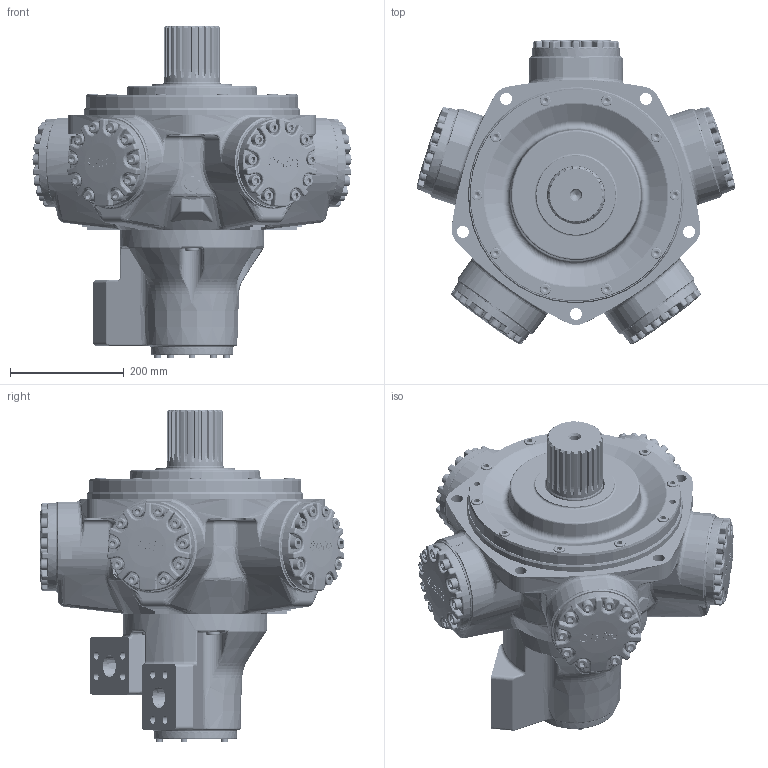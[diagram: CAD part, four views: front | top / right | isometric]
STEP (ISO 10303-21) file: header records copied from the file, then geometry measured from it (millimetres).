
FILE_DESCRIPTION(/* description */ (''),/* implementation_level */ '2;1');
FILE_NAME(/* name */ 'J:\3D Step files\Approved for WEB\Staffa\HMHDB125 Z5 FM4 70.stp',/* time_stamp */ '2017-09-12T13:54:45+01:00',/* author */ ('mnorman'),/* organization */ (''),/* preprocessor_version */ 'ST-DEVELOPER v16.13',/* originating_system */ 'Autodesk Inventor 2018',/* authorisation */ '');
FILE_SCHEMA (('AUTOMOTIVE_DESIGN { 1 0 10303 214 3 1 1 }'));
Length unit declared in the file: millimetre
Products named in the file (1): HMHDB125 Z5 F4 70
Bounding box: 562.07 x 537.19 x 584.91 mm (x, y, z)
Volume: 25448409.6 mm3; surface area: 2130238.9 mm2
Topology: 2 solids, 124 shells, 4237 faces, 10330 edges, 6391 vertices
Faces by surface type: plane 1524, bspline 921, cylinder 865, cone 424, torus 360, sphere 143
Full cylindrical faces by diameter (mm): 7.938 x6, 8.334 x5, 11.328 x62, 11.913 x5, 12.7 x65, 13.494 x10, 13.5 x50, 13.843 x8, 15.875 x10, 16.272 x5, 16.51 x1, 17.323 x1, 19.05 x63, 20.6 x50, 20.637 x10, 21 x5, 23.825 x5, 25 x5, 25.4 x5, 28.575 x5, 28.677 x5, 38.1 x5, 38.176 x5, 79.375 x1, 92.075 x1, 92.15 x5, 92.151 x1, 99.212 x1, 101.282 x2, 101.485 x10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
Entity records: 169766 total; most frequent: CARTESIAN_POINT 78701, ORIENTED_EDGE 17940, DIRECTION 16325, EDGE_CURVE 8970, AXIS2_PLACEMENT_3D 6534, VERTEX_POINT 5989, EDGE_LOOP 5391, FACE_OUTER_BOUND 4236
